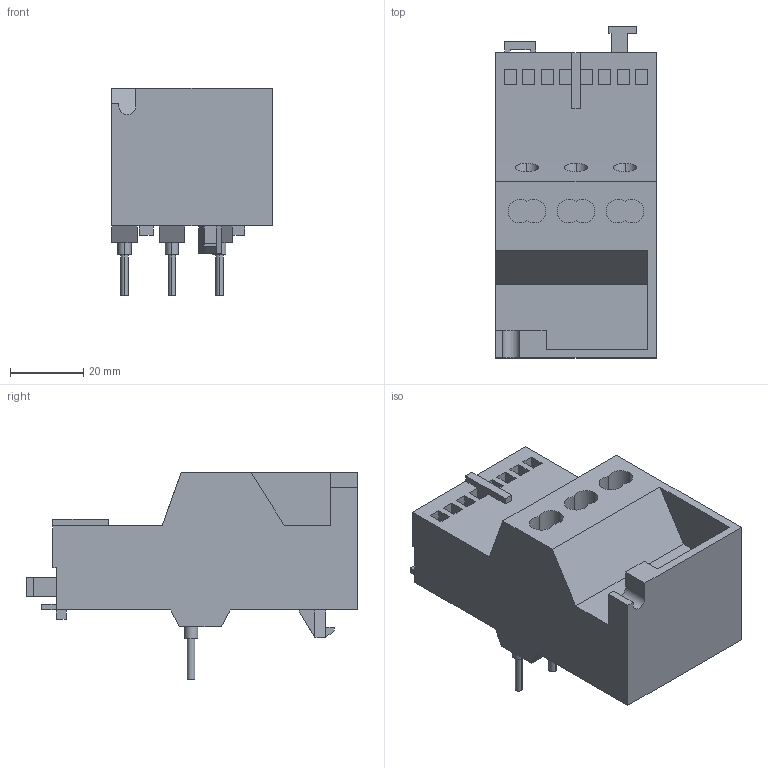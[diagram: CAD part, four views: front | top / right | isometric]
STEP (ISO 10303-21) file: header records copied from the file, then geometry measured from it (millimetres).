
FILE_DESCRIPTION (( 'STEP AP214' ), '1' );
FILE_NAME ('ﾐﾒﾋ-1005ﾌ-1-25ﾀ-(0,61-1ﾀ)-ﾈ1-ﾓﾕﾋ4-ﾊﾝﾀﾇ.STEP', '2016-07-06T10:52:18', ( '' ), ( '' ), 'SwSTEP 2.0', 'SolidWorks 2012', '' );
FILE_SCHEMA (( 'AUTOMOTIVE_DESIGN' ));
Length unit declared in the file: millimetre
Products named in the file (1): ﾐﾒﾋ-1005ﾌ-1-25ﾀ-(0,61-1ﾀ)-ﾈ1-ﾓﾕﾋ4-ﾊﾝﾀﾇ
Bounding box: 44 x 90.9 x 56.8 mm (x, y, z)
Volume: 103288.8 mm3; surface area: 20661.1 mm2
Topology: 1 solids, 1 shells, 183 faces, 445 edges, 294 vertices
Faces by surface type: plane 141, cylinder 42
Entity records: 5351 total; most frequent: CARTESIAN_POINT 941, ORIENTED_EDGE 890, DIRECTION 885, EDGE_CURVE 445, LINE 361, VECTOR 361, VERTEX_POINT 294, AXIS2_PLACEMENT_3D 262
